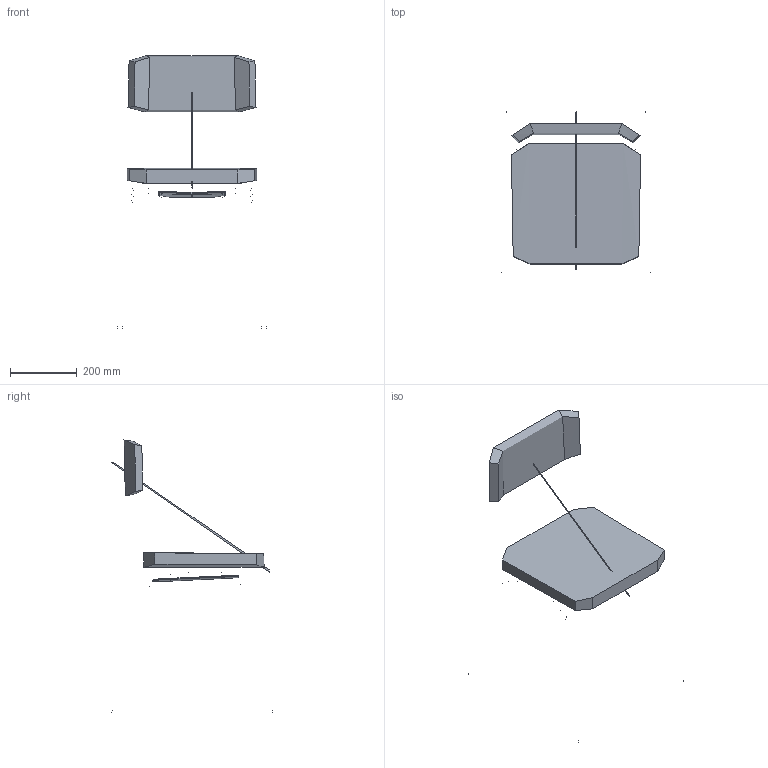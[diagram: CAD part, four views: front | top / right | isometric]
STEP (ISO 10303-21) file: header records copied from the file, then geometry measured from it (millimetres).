
FILE_DESCRIPTION(/* description */ (''),/* implementation_level */ '2;1');
FILE_NAME(/* name */ 'ZOE 221-BL',/* time_stamp */ '2023-05-17T08:32:33+02:00',/* author */ (''),/* organization */ (''),/* preprocessor_version */ 'ST-DEVELOPER v16.5',/* originating_system */ 'Rhino 7.29',/* authorisation */ '');
FILE_SCHEMA (('CONFIG_CONTROL_DESIGN'));
Length unit declared in the file: millimetre
Products named in the file (1): Document
Bounding box: 443.65 x 482.19 x 813.24 mm (x, y, z)
Volume: 13784024.3 mm3; surface area: 1329770.2 mm2
Topology: 2 solids, 12 shells, 85 faces, 214 edges, 140 vertices
Faces by surface type: bspline 55, cylinder 18, plane 12
Full cylindrical faces by diameter (mm): 18 x16, 22 x2
Entity records: 12448 total; most frequent: CARTESIAN_POINT 11050, ORIENTED_EDGE 380, EDGE_CURVE 211, B_SPLINE_CURVE_WITH_KNOTS 140, VERTEX_POINT 138, EDGE_LOOP 89, ADVANCED_FACE 85, FACE_OUTER_BOUND 85
